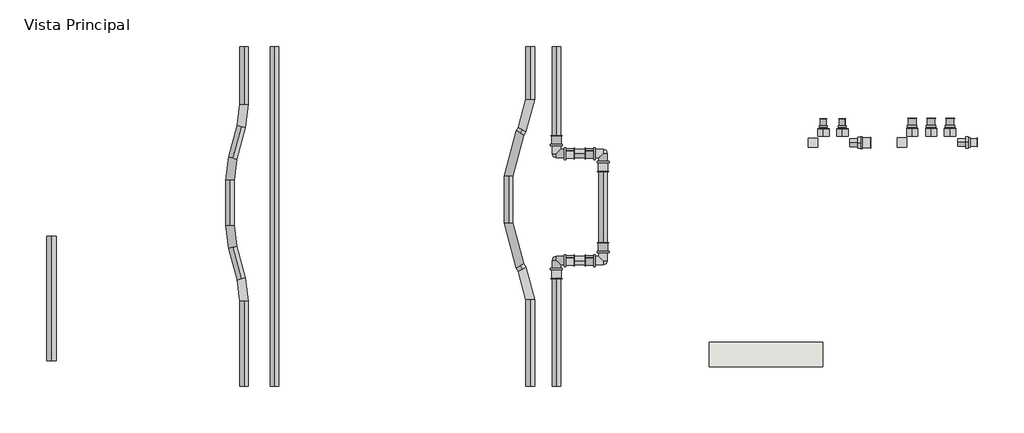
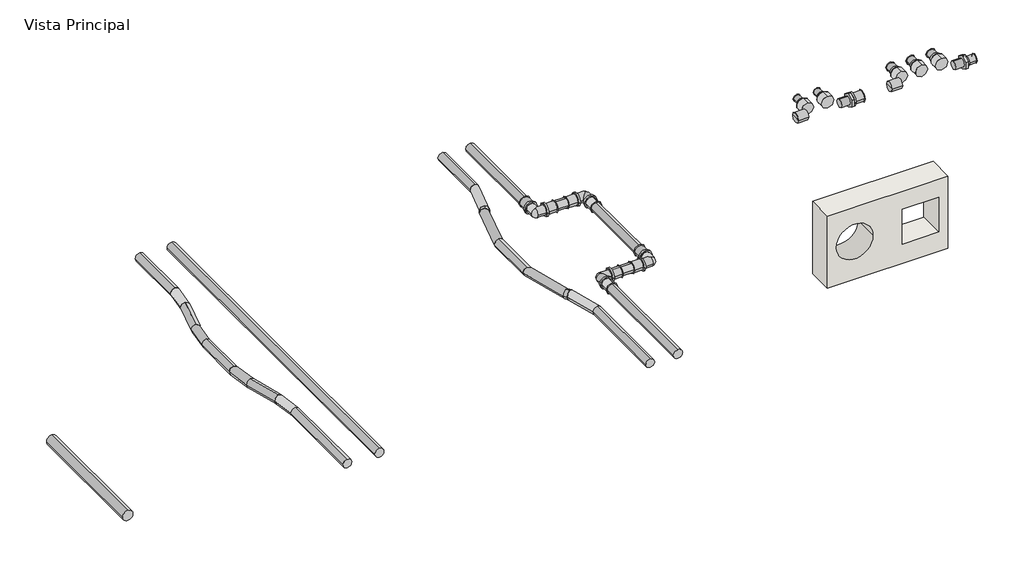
# One storey, incomplete: 36 pipe fittings, 17 pipe segments, 1 wall.
"""IFC4 building model written with IfcOpenShell, lengths in millimetres."""

from ifc_helpers import new_model, si_unit, point, frame, frame_2d, origin, place, context, project, spatial, polyline, circle_curve, trimmed, segment, composite_curve, outline, extrude, transform, mapped, element, save
from components import pipe_fitting_0048f4e8, k5_579bd2f6, pipe_fitting_518063be, pipe_fitting_5590baf3, pipe_fitting_c3ecb90c, azul_4665513f, rojo_d383c2d2, rojo_f0028795, var_25c4f382, var_874b99da, var_47cb32f1, var_bb96817c

model = new_model("IFC4")

# Units and contexts
model_context = context("Model", 3, world=origin())
ifc_project = project(units=[si_unit("LENGTHUNIT", "METRE", prefix="MILLI")], contexts=[model_context])

# Site, building, storey
site = spatial("IfcSite", under=ifc_project)
building = spatial("IfcBuilding", under=site)
storey = spatial("IfcBuildingStorey", under=building, Name="Vista Principal", Elevation=0.0)

# Pipe fittings
placement = place(None, origin())
pipe_fitting_shape = pipe_fitting_0048f4e8(model_context)
element("IfcPipeFitting", 1, ObjectType="AmancoWavin_Unionesdetubería_TigrisFlexZNoUsarCampana : Tigris K5", at=placement, inside=storey, context=model_context, shape_type="MappedRepresentation", body=[
    mapped(pipe_fitting_shape, transform((3018.024619, 1194.6157912, 0.0), x_axis=(0.0, -1.0, 0.0), y_axis=(1.0, 0.0, 0.0), z_axis=(0.0, 0.0, 1.0))),
])
element("IfcPipeFitting", 2, ObjectType="AmancoWavin_Unionesdetubería_TigrisFlexZNoUsarCampana : Tigris K5", at=placement, inside=storey, context=model_context, shape_type="MappedRepresentation", body=[
    mapped(pipe_fitting_shape, transform((3073.024619, 1194.6157912, 0.0), x_axis=(0.0, -1.0, 0.0), y_axis=(1.0, 0.0, 0.0), z_axis=(0.0, 0.0, 1.0))),
])
element("IfcPipeFitting", 3, ObjectType="AmancoWavin_Unionesdetubería_TigrisFlexZNoUsarCampana : Tigris K5", at=placement, inside=storey, context=model_context, shape_type="MappedRepresentation", body=[
    mapped(pipe_fitting_shape, transform((3128.024619, 1194.6157912, 0.0), x_axis=(0.0, -1.0, 0.0), y_axis=(1.0, 0.0, 0.0), z_axis=(0.0, 0.0, 1.0))),
])
element("IfcPipeFitting", 4, ObjectType="AmancoWavin_Unionesdetubería_TigrisFlexZNoUsarCampana : Tigris K5", at=placement, inside=storey, context=model_context, shape_type="MappedRepresentation", body=[
    mapped(pipe_fitting_shape, transform((3181.324619, 1150.2157912, 0.0), x_axis=(-1.0, 0.0, 0.0), y_axis=(0.0, -1.0, 0.0), z_axis=(0.0, 0.0, 1.0))),
])
k5_shape = k5_579bd2f6(model_context)
element("IfcPipeFitting", 5, ObjectType="AmancoWavin_Unionesdetubería_TigrisFlexZNoUsarCampana : Tigris K5", at=placement, inside=storey, context=model_context, shape_type="MappedRepresentation", body=[
    mapped(k5_shape, transform((2868.8239674, 1149.4178681, 0.0), x_axis=(-1.0, 0.0, 0.0), y_axis=(0.0, -1.0, 0.0), z_axis=(0.0, 0.0, 1.0))),
])
pipe_fitting_2_shape = pipe_fitting_518063be(model_context)
element("IfcPipeFitting", 6, ObjectType="AmancoWavin_Unionesdetubería_TigrisFlexZNoUsarConectorRosHembraManifold : Tigris K5", at=placement, inside=storey, context=model_context, shape_type="MappedRepresentation", body=[
    mapped(pipe_fitting_2_shape, transform((2760.5239674, 1191.3178681, 0.0), x_axis=(0.0, 1.0, 0.0), y_axis=(-1.0, 0.0, 0.0), z_axis=(0.0, 0.0, 1.0))),
])
element("IfcPipeFitting", 7, ObjectType="AmancoWavin_Unionesdetubería_TigrisFlexZNoUsarConectorRosHembraManifold : Tigris K5", at=placement, inside=storey, context=model_context, shape_type="MappedRepresentation", body=[
    mapped(pipe_fitting_2_shape, transform((2815.5239674, 1191.3178681, 0.0), x_axis=(0.0, 1.0, 0.0), y_axis=(-1.0, 0.0, 0.0), z_axis=(0.0, 0.0, 1.0))),
])
pipe_fitting_3_shape = pipe_fitting_5590baf3(model_context)
element("IfcPipeFitting", 8, ObjectType="AmancoWavin_Unionesdetubería_TigrisFlexZNoUsarConectorRosHembraManifold : Tigris K5", at=placement, inside=storey, context=model_context, shape_type="MappedRepresentation", body=[
    mapped(pipe_fitting_3_shape, transform((3018.024619, 1192.1157912, 0.0), x_axis=(0.0, 1.0, 0.0), y_axis=(-1.0, 0.0, 0.0), z_axis=(0.0, 0.0, 1.0))),
])
element("IfcPipeFitting", 9, ObjectType="AmancoWavin_Unionesdetubería_TigrisFlexZNoUsarConectorRosHembraManifold : Tigris K5", at=placement, inside=storey, context=model_context, shape_type="MappedRepresentation", body=[
    mapped(pipe_fitting_3_shape, transform((3073.024619, 1192.1157912, 0.0), x_axis=(0.0, 1.0, 0.0), y_axis=(-1.0, 0.0, 0.0), z_axis=(0.0, 0.0, 1.0))),
])
element("IfcPipeFitting", 10, ObjectType="AmancoWavin_Unionesdetubería_TigrisFlexZNoUsarConectorRosHembraManifold : Tigris K5", at=placement, inside=storey, context=model_context, shape_type="MappedRepresentation", body=[
    mapped(pipe_fitting_3_shape, transform((3128.024619, 1192.1157912, 0.0), x_axis=(0.0, 1.0, 0.0), y_axis=(-1.0, 0.0, 0.0), z_axis=(0.0, 0.0, 1.0))),
])
pipe_fitting_4_shape = pipe_fitting_c3ecb90c(model_context)
element("IfcPipeFitting", 11, ObjectType="AmancoWavin_Unionesdetubería_TigrisFlexZNoUsarCampana : Tigris K5", at=placement, inside=storey, context=model_context, shape_type="MappedRepresentation", body=[
    mapped(pipe_fitting_4_shape, transform((2760.5239674, 1193.8178681, 0.0), x_axis=(0.0, -1.0, 0.0), y_axis=(1.0, 0.0, 0.0), z_axis=(0.0, 0.0, 1.0))),
])
element("IfcPipeFitting", 12, ObjectType="AmancoWavin_Unionesdetubería_TigrisFlexZNoUsarCampana : Tigris K5", at=placement, inside=storey, context=model_context, shape_type="MappedRepresentation", body=[
    mapped(pipe_fitting_4_shape, transform((2815.5239674, 1193.8178681, 0.0), x_axis=(0.0, -1.0, 0.0), y_axis=(1.0, 0.0, 0.0), z_axis=(0.0, 0.0, 1.0))),
])
azul_shape = azul_4665513f(model_context)
element("IfcPipeFitting", 13, ObjectType="AmancoWavin_UnionesdeTubería_TigrisFlexTuberíaFlexible : Azul", at=placement, inside=storey, context=model_context, shape_type="MappedRepresentation", body=[
    mapped(azul_shape, transform((1082.9960417, 1228.0038708, 0.0), x_axis=(0.2588190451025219, 0.965925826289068, 0.0), y_axis=(-0.965925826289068, 0.2588190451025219, 0.0), z_axis=(0.0, 0.0, 1.0))),
])
element("IfcPipeFitting", 14, ObjectType="AmancoWavin_UnionesdeTubería_TigrisFlexTuberíaFlexible : Azul", at=placement, inside=storey, context=model_context, shape_type="MappedRepresentation", body=[
    mapped(azul_shape, transform((1041.5849945, 1073.4557386, 0.0), x_axis=(-0.25881904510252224, -0.965925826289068, 0.0), y_axis=(0.965925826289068, -0.25881904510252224, 0.0), z_axis=(0.0, 0.0, 1.0))),
])
element("IfcPipeFitting", 15, ObjectType="AmancoWavin_UnionesdeTubería_TigrisFlexTuberíaFlexible : Azul", at=placement, inside=storey, context=model_context, shape_type="MappedRepresentation", body=[
    mapped(azul_shape, transform((1041.5849945, 877.9987022, 0.0), x_axis=(0.0, -1.0, 0.0), y_axis=(1.0, 0.0, 0.0), z_axis=(0.0, 0.0, 1.0))),
])
element("IfcPipeFitting", 16, ObjectType="AmancoWavin_UnionesdeTubería_TigrisFlexTuberíaFlexible : Azul", at=placement, inside=storey, context=model_context, shape_type="MappedRepresentation", body=[
    mapped(azul_shape, transform((1082.9960417, 723.45057, 0.0), x_axis=(0.0, 1.0, 0.0), y_axis=(-1.0, 0.0, 0.0), z_axis=(0.0, 0.0, 1.0))),
])
element("IfcPipeFitting", 17, ObjectType="AmancoWavin_Unionesdetubería_TigrisFlexZNoUsarCampana : K5", at=placement, inside=storey, context=model_context, shape_type="MappedRepresentation", body=[
    mapped(k5_shape, transform((1987.7558771, 1140.0038708, 0.0), x_axis=(0.0, -1.0, 0.0), y_axis=(1.0, 0.0, 0.0), z_axis=(0.0, 0.0, 1.0))),
])
element("IfcPipeFitting", 18, ObjectType="AmancoWavin_Unionesdetubería_TigrisFlexZNoUsarCampana : K5", at=placement, inside=storey, context=model_context, shape_type="MappedRepresentation", body=[
    mapped(k5_shape, transform((2009.7558771, 1118.0038708, 0.0), x_axis=(-1.0, 0.0, 0.0), y_axis=(0.0, -1.0, 0.0), z_axis=(0.0, 0.0, 1.0))),
])
element("IfcPipeFitting", 19, ObjectType="AmancoWavin_Unionesdetubería_TigrisFlexZNoUsarCampana : K5", at=placement, inside=storey, context=model_context, shape_type="MappedRepresentation", body=[
    mapped(k5_shape, transform((2122.7558771, 1096.0038708, 0.0), x_axis=(0.0, 1.0, 0.0), y_axis=(-1.0, 0.0, 0.0), z_axis=(0.0, 0.0, 1.0))),
])
element("IfcPipeFitting", 20, ObjectType="AmancoWavin_Unionesdetubería_TigrisFlexZNoUsarCampana : K5", at=placement, inside=storey, context=model_context, shape_type="MappedRepresentation", body=[
    mapped(k5_shape, transform((2100.7558771, 1118.0038708, 0.0), x_axis=(1.0, 0.0, 0.0), y_axis=(0.0, 1.0, 0.0), z_axis=(0.0, 0.0, 1.0))),
])
element("IfcPipeFitting", 21, ObjectType="AmancoWavin_Unionesdetubería_TigrisFlexZNoUsarCampana : K5", at=placement, inside=storey, context=model_context, shape_type="MappedRepresentation", body=[
    mapped(k5_shape, transform((2100.7558771, 808.0038708, 0.0), x_axis=(1.0, 0.0, 0.0), y_axis=(0.0, 1.0, 0.0), z_axis=(0.0, 0.0, 1.0))),
])
element("IfcPipeFitting", 22, ObjectType="AmancoWavin_Unionesdetubería_TigrisFlexZNoUsarCampana : K5", at=placement, inside=storey, context=model_context, shape_type="MappedRepresentation", body=[
    mapped(k5_shape, transform((2122.7558771, 830.0038708, 0.0), x_axis=(0.0, -1.0, 0.0), y_axis=(1.0, 0.0, 0.0), z_axis=(0.0, 0.0, 1.0))),
])
element("IfcPipeFitting", 23, ObjectType="AmancoWavin_Unionesdetubería_TigrisFlexZNoUsarCampana : K5", at=placement, inside=storey, context=model_context, shape_type="MappedRepresentation", body=[
    mapped(k5_shape, transform((2009.7558771, 808.0038708, 0.0), x_axis=(-1.0, 0.0, 0.0), y_axis=(0.0, -1.0, 0.0), z_axis=(0.0, 0.0, 1.0))),
])
element("IfcPipeFitting", 24, ObjectType="AmancoWavin_Unionesdetubería_TigrisFlexZNoUsarCampana : K5", at=placement, inside=storey, context=model_context, shape_type="MappedRepresentation", body=[
    mapped(k5_shape, transform((1987.7558771, 786.0038708, 0.0), x_axis=(0.0, 1.0, 0.0), y_axis=(-1.0, 0.0, 0.0), z_axis=(0.0, 0.0, 1.0))),
])
rojo_shape = rojo_d383c2d2(model_context)
element("IfcPipeFitting", 25, ObjectType="AmancoWavin_UnionesdeTubería_TigrisFlexTuberíaFlexible : Rojo", at=placement, inside=storey, context=model_context, shape_type="MappedRepresentation", body=[
    mapped(rojo_shape, transform((1849.3324376, 850.468663, 0.0), x_axis=(0.0, -1.0, 0.0), y_axis=(1.0, 0.0, 0.0), z_axis=(0.0, 0.0, 1.0))),
])
element("IfcPipeFitting", 26, ObjectType="AmancoWavin_UnionesdeTubería_TigrisFlexTuberíaFlexible : Rojo", at=placement, inside=storey, context=model_context, shape_type="MappedRepresentation", body=[
    mapped(rojo_shape, transform((1849.3324376, 1119.7506953, 0.0), x_axis=(-0.4999999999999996, -0.8660254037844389, 0.0), y_axis=(0.8660254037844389, -0.4999999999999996, 0.0), z_axis=(0.0, 0.0, 1.0))),
])
rojo_2_shape = rojo_f0028795(model_context)
element("IfcPipeFitting", 27, ObjectType="AmancoWavin_UnionesdeTubería_TigrisFlexTuberíaFlexible : Rojo", at=placement, inside=storey, context=model_context, shape_type="MappedRepresentation", body=[
    mapped(rojo_2_shape, transform((1911.8324376, 742.2154876, 0.0), x_axis=(0.0, 1.0, 0.0), y_axis=(-1.0, 0.0, 0.0), z_axis=(0.0, 0.0, 1.0))),
])
element("IfcPipeFitting", 28, ObjectType="AmancoWavin_UnionesdeTubería_TigrisFlexTuberíaFlexible : Rojo", at=placement, inside=storey, context=model_context, shape_type="MappedRepresentation", body=[
    mapped(rojo_2_shape, transform((1911.8324376, 1228.0038708, 0.0), x_axis=(0.49999999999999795, 0.8660254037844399, 0.0), y_axis=(-0.8660254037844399, 0.49999999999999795, 0.0), z_axis=(0.0, 0.0, 1.0))),
])
var_shape = var_25c4f382(model_context)
element("IfcPipeFitting", 29, ObjectType="AmancoWavin_Unionesdetubería_TigrisFlexZNoUsarTapaHembraManifold : Var.", at=placement, inside=storey, context=model_context, shape_type="MappedRepresentation", body=[
    mapped(var_shape, transform((2724.5239674, 1149.4178681, 0.0), x_axis=(-1.0, 0.0, 0.0), y_axis=(0.0, -1.0, 0.0), z_axis=(0.0, 0.0, 1.0))),
])
element("IfcPipeFitting", 30, ObjectType="AmancoWavin_Unionesdetubería_TigrisFlexZNoUsarTapaHembraManifold : Var.", at=placement, inside=storey, context=model_context, shape_type="MappedRepresentation", body=[
    mapped(var_shape, transform((2982.024619, 1150.2157912, 0.0), x_axis=(-1.0, 0.0, 0.0), y_axis=(0.0, -1.0, 0.0), z_axis=(0.0, 0.0, 1.0))),
])
var_2_shape = var_874b99da(model_context)
element("IfcPipeFitting", 31, ObjectType="AmancoWavin_Unionesdetubería_TigrisFlexZNoUsarRoscaMacho-MachoManifold(nested) : Var.", at=placement, inside=storey, context=model_context, shape_type="MappedRepresentation", body=[
    mapped(var_2_shape, transform((2899.0239674, 1149.4178681, 0.0), x_axis=(1.0, 0.0, 0.0), y_axis=(0.0, 1.0, 0.0), z_axis=(0.0, 0.0, 1.0))),
])
var_3_shape = var_47cb32f1(model_context)
element("IfcPipeFitting", 32, ObjectType="AmancoWavin_Unionesdetubería_TigrisFlexZNoUsarRoscaMacho-MachoManifold(nested) : Var.", at=placement, inside=storey, context=model_context, shape_type="MappedRepresentation", body=[
    mapped(var_3_shape, transform((3207.524619, 1150.2157912, 0.0), x_axis=(1.0, 0.0, 0.0), y_axis=(0.0, 1.0, 0.0), z_axis=(0.0, 0.0, 1.0))),
])
var_4_shape = var_bb96817c(model_context)
element("IfcPipeFitting", 33, ObjectType="AmancoWavin_Unionesdetubería_TigrisFlexCodo : Var.", at=placement, inside=storey, context=model_context, shape_type="MappedRepresentation", body=[
    mapped(var_4_shape, transform((1987.7558771, 1118.0038708, 0.0), x_axis=(0.0, -1.0, 0.0), y_axis=(1.0, 0.0, 0.0), z_axis=(0.0, 0.0, 1.0))),
])
element("IfcPipeFitting", 34, ObjectType="AmancoWavin_Unionesdetubería_TigrisFlexCodo : Var.", at=placement, inside=storey, context=model_context, shape_type="MappedRepresentation", body=[
    mapped(var_4_shape, transform((2122.7558771, 1118.0038708, 0.0), x_axis=(0.0, 1.0, 0.0), y_axis=(-1.0, 0.0, 0.0), z_axis=(0.0, 0.0, 1.0))),
])
element("IfcPipeFitting", 35, ObjectType="AmancoWavin_Unionesdetubería_TigrisFlexCodo : Var.", at=placement, inside=storey, context=model_context, shape_type="MappedRepresentation", body=[
    mapped(var_4_shape, transform((2122.7558771, 808.0038708, 0.0), x_axis=(1.0, 0.0, 0.0), y_axis=(0.0, 1.0, 0.0), z_axis=(0.0, 0.0, 1.0))),
])
element("IfcPipeFitting", 36, ObjectType="AmancoWavin_Unionesdetubería_TigrisFlexCodo : Var.", at=placement, inside=storey, context=model_context, shape_type="MappedRepresentation", body=[
    mapped(var_4_shape, transform((1987.7558771, 808.0038708, 0.0), x_axis=(-1.0, 0.0, 0.0), y_axis=(0.0, -1.0, 0.0), z_axis=(0.0, 0.0, 1.0))),
])

# Pipe segments
element("IfcPipeSegment", 37, ObjectType="Tubo de Transición Universal", at=placement, inside=storey, context=model_context, shape_type="SweptSolid", body=[
    extrude(outline(composite_curve([segment(trimmed(circle_curve(frame_2d((0.0, 524.9354616)), 14.2875), [point((0.0, 510.6479616))], [point((-14.2875, 524.9354616))], False, "CARTESIAN"), True, "CONTINUOUS"), segment(trimmed(circle_curve(frame_2d((0.0, 524.9354616)), 14.2875), [point((-14.2875, 524.9354616))], [point((0.0, 539.2229616))], False, "CARTESIAN"), True, "CONTINUOUS"), segment(trimmed(circle_curve(frame_2d((0.0, 524.9354616)), 14.2875), [point((0.0, 539.2229616))], [point((14.2875, 524.9354616))], False, "CARTESIAN"), True, "CONTINUOUS"), segment(trimmed(circle_curve(frame_2d((0.0, 524.9354616)), 14.2875), [point((14.2875, 524.9354616))], [point((0.0, 510.6479616))], False, "CARTESIAN"), True, "CONTINUOUS")], self_intersect=False)), frame((0.0, 517.9987022, 0.0), z_axis=(0.0, 1.0, 0.0), x_axis=(0.0, 0.0, 1.0)), (0.0, 0.0, 1.0), 360.0),
])
element("IfcPipeSegment", 38, ObjectType="AmancoWavin_TuberíasFlexibles_TIGRISFLEXAzul 16-32 mm (50 mts-100 mts)", at=placement, inside=storey, context=model_context, shape_type="SweptSolid", body=[
    extrude(outline(composite_curve([segment(trimmed(circle_curve(frame_2d((0.0, 1082.9960417)), 12.5), [point((0.0, 1070.4960417))], [point((-12.5, 1082.9960417))], False, "CARTESIAN"), True, "CONTINUOUS"), segment(trimmed(circle_curve(frame_2d((0.0, 1082.9960417)), 12.5), [point((-12.5, 1082.9960417))], [point((0.0, 1095.4960417))], False, "CARTESIAN"), True, "CONTINUOUS"), segment(trimmed(circle_curve(frame_2d((0.0, 1082.9960417)), 12.5), [point((0.0, 1095.4960417))], [point((12.5, 1082.9960417))], False, "CARTESIAN"), True, "CONTINUOUS"), segment(trimmed(circle_curve(frame_2d((0.0, 1082.9960417)), 12.5), [point((12.5, 1082.9960417))], [point((0.0, 1070.4960417))], False, "CARTESIAN"), True, "CONTINUOUS")], self_intersect=False)), frame((0.0, 1260.9169952, 0.0), z_axis=(0.0, 1.0, 0.0), x_axis=(0.0, 0.0, 1.0)), (0.0, 0.0, 1.0), 167.0868756),
])
element("IfcPipeSegment", 39, ObjectType="AmancoWavin_TuberíasFlexibles_TIGRISFLEXAzul 16-32 mm (50 mts-100 mts)", at=placement, inside=storey, context=model_context, shape_type="SweptSolid", body=[
    extrude(outline(composite_curve([segment(trimmed(circle_curve(frame_2d((0.0, -12.5)), 12.5), [point((-12.5, -12.5))], [point((0.0, 0.0))], False, "CARTESIAN"), True, "CONTINUOUS"), segment(trimmed(circle_curve(frame_2d((0.0, -12.5)), 12.5), [point((0.0, 0.0))], [point((12.5, -12.5))], False, "CARTESIAN"), True, "CONTINUOUS"), segment(trimmed(circle_curve(frame_2d((0.0, -12.5)), 12.5), [point((12.5, -12.5))], [point((0.0, -25.0))], False, "CARTESIAN"), True, "CONTINUOUS"), segment(trimmed(circle_curve(frame_2d((0.0, -12.5)), 12.5), [point((0.0, -25.0))], [point((-12.5, -12.5))], False, "CARTESIAN"), True, "CONTINUOUS")], self_intersect=False)), frame((1050.1035379, 1105.2473755, -12.5), z_axis=(0.25881904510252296, 0.9659258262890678, 0.0), x_axis=(0.9659258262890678, -0.25881904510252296, 0.0)), (0.0, 0.0, 1.0), 94.1737512),
])
element("IfcPipeSegment", 40, ObjectType="AmancoWavin_TuberíasFlexibles_TIGRISFLEXAzul 16-32 mm (50 mts-100 mts)", at=placement, inside=storey, context=model_context, shape_type="SweptSolid", body=[
    extrude(outline(composite_curve([segment(trimmed(circle_curve(frame_2d((0.0, 1041.5849945)), 12.5), [point((0.0, 1029.0849945))], [point((-12.5, 1041.5849945))], False, "CARTESIAN"), True, "CONTINUOUS"), segment(trimmed(circle_curve(frame_2d((0.0, 1041.5849945)), 12.5), [point((-12.5, 1041.5849945))], [point((0.0, 1054.0849945))], False, "CARTESIAN"), True, "CONTINUOUS"), segment(trimmed(circle_curve(frame_2d((0.0, 1041.5849945)), 12.5), [point((0.0, 1054.0849945))], [point((12.5, 1041.5849945))], False, "CARTESIAN"), True, "CONTINUOUS"), segment(trimmed(circle_curve(frame_2d((0.0, 1041.5849945)), 12.5), [point((12.5, 1041.5849945))], [point((0.0, 1029.0849945))], False, "CARTESIAN"), True, "CONTINUOUS")], self_intersect=False)), frame((0.0, 910.9118266, 0.0), z_axis=(0.0, 1.0, 0.0), x_axis=(0.0, 0.0, 1.0)), (0.0, 0.0, 1.0), 129.6307876),
])
element("IfcPipeSegment", 41, ObjectType="AmancoWavin_TuberíasFlexibles_TIGRISFLEXAzul 16-32 mm (50 mts-100 mts)", at=placement, inside=storey, context=model_context, shape_type="SweptSolid", body=[
    extrude(outline(composite_curve([segment(trimmed(circle_curve(frame_2d((0.0, -12.5)), 12.5), [point((-12.5000001, -12.5))], [point((0.0, 0.0))], False, "CARTESIAN"), True, "CONTINUOUS"), segment(trimmed(circle_curve(frame_2d((0.0, -12.5)), 12.5), [point((0.0, 0.0))], [point((12.5, -12.5))], False, "CARTESIAN"), True, "CONTINUOUS"), segment(trimmed(circle_curve(frame_2d((0.0, -12.5)), 12.5), [point((12.5, -12.5))], [point((0.0, -25.0))], False, "CARTESIAN"), True, "CONTINUOUS"), segment(trimmed(circle_curve(frame_2d((0.0, -12.5)), 12.5), [point((0.0, -25.0))], [point((-12.5000001, -12.5))], False, "CARTESIAN"), True, "CONTINUOUS")], self_intersect=False)), frame((1074.4774983, 755.2422069, -12.5), z_axis=(-0.2588190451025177, 0.9659258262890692, 0.0), x_axis=(0.9659258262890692, 0.2588190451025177, 0.0)), (0.0, 0.0, 1.0), 94.1737512),
])
element("IfcPipeSegment", 42, ObjectType="AmancoWavin_TuberíasFlexibles_TIGRISFLEXAzul 16-32 mm (50 mts-100 mts)", at=placement, inside=storey, context=model_context, shape_type="SweptSolid", body=[
    extrude(outline(composite_curve([segment(trimmed(circle_curve(frame_2d((0.0, 1082.9960417)), 12.5), [point((0.0, 1070.4960417))], [point((-12.5, 1082.9960417))], False, "CARTESIAN"), True, "CONTINUOUS"), segment(trimmed(circle_curve(frame_2d((0.0, 1082.9960417)), 12.5), [point((-12.5, 1082.9960417))], [point((0.0, 1095.4960417))], False, "CARTESIAN"), True, "CONTINUOUS"), segment(trimmed(circle_curve(frame_2d((0.0, 1082.9960417)), 12.5), [point((0.0, 1095.4960417))], [point((12.5, 1082.9960417))], False, "CARTESIAN"), True, "CONTINUOUS"), segment(trimmed(circle_curve(frame_2d((0.0, 1082.9960417)), 12.5), [point((12.5, 1082.9960417))], [point((0.0, 1070.4960417))], False, "CARTESIAN"), True, "CONTINUOUS")], self_intersect=False)), frame((0.0, 443.45057, 0.0), z_axis=(0.0, 1.0, 0.0), x_axis=(0.0, 0.0, 1.0)), (0.0, 0.0, 1.0), 247.0868756),
])
element("IfcPipeSegment", 43, ObjectType="AmancoWavin_TuberíasFlexibles_TIGRISFLEXAzul 16-32 mm (50 mts-100 mts)", at=placement, inside=storey, context=model_context, shape_type="SweptSolid", body=[
    extrude(outline(composite_curve([segment(trimmed(circle_curve(frame_2d((0.0, 1170.7407412)), 12.5), [point((0.0, 1158.2407412))], [point((-12.5, 1170.7407412))], False, "CARTESIAN"), True, "CONTINUOUS"), segment(trimmed(circle_curve(frame_2d((0.0, 1170.7407412)), 12.5), [point((-12.5, 1170.7407412))], [point((0.0, 1183.2407412))], False, "CARTESIAN"), True, "CONTINUOUS"), segment(trimmed(circle_curve(frame_2d((0.0, 1170.7407412)), 12.5), [point((0.0, 1183.2407412))], [point((12.5, 1170.7407412))], False, "CARTESIAN"), True, "CONTINUOUS"), segment(trimmed(circle_curve(frame_2d((0.0, 1170.7407412)), 12.5), [point((12.5, 1170.7407412))], [point((0.0, 1158.2407412))], False, "CARTESIAN"), True, "CONTINUOUS")], self_intersect=False)), frame((0.0, 443.45057, 0.0), z_axis=(0.0, 1.0, 0.0), x_axis=(0.0, 0.0, 1.0)), (0.0, 0.0, 1.0), 984.5533008),
])
element("IfcPipeSegment", 44, ObjectType="AmancoWavin_TuberíasFlexibles_TIGRISFLEXRojo 16-32 mm (50 mts-100 mts)", at=placement, inside=storey, context=model_context, shape_type="SweptSolid", body=[
    extrude(outline(composite_curve([segment(trimmed(circle_curve(frame_2d((0.0, 1987.7558771)), 12.5), [point((0.0, 1975.2558771))], [point((-12.5, 1987.7558771))], False, "CARTESIAN"), True, "CONTINUOUS"), segment(trimmed(circle_curve(frame_2d((0.0, 1987.7558771)), 12.5), [point((-12.5, 1987.7558771))], [point((0.0, 2000.2558771))], False, "CARTESIAN"), True, "CONTINUOUS"), segment(trimmed(circle_curve(frame_2d((0.0, 1987.7558771)), 12.5), [point((0.0, 2000.2558771))], [point((12.5, 1987.7558771))], False, "CARTESIAN"), True, "CONTINUOUS"), segment(trimmed(circle_curve(frame_2d((0.0, 1987.7558771)), 12.5), [point((12.5, 1987.7558771))], [point((0.0, 1975.2558771))], False, "CARTESIAN"), True, "CONTINUOUS")], self_intersect=False)), frame((0.0, 1140.0038708, 0.0), z_axis=(0.0, 1.0, 0.0), x_axis=(0.0, 0.0, 1.0)), (0.0, 0.0, 1.0), 288.0),
])
element("IfcPipeSegment", 45, ObjectType="AmancoWavin_TuberíasFlexibles_TIGRISFLEXRojo 16-32 mm (50 mts-100 mts)", at=placement, inside=storey, context=model_context, shape_type="SweptSolid", body=[
    extrude(outline(composite_curve([segment(trimmed(circle_curve(frame_2d((1118.0038708, 0.0)), 12.5), [point((1105.5038708, 0.0))], [point((1118.0038708, 12.5))], False, "CARTESIAN"), True, "CONTINUOUS"), segment(trimmed(circle_curve(frame_2d((1118.0038708, 0.0)), 12.5), [point((1118.0038708, 12.5))], [point((1130.5038708, 0.0))], False, "CARTESIAN"), True, "CONTINUOUS"), segment(trimmed(circle_curve(frame_2d((1118.0038708, 0.0)), 12.5), [point((1130.5038708, 0.0))], [point((1118.0038708, -12.5))], False, "CARTESIAN"), True, "CONTINUOUS"), segment(trimmed(circle_curve(frame_2d((1118.0038708, 0.0)), 12.5), [point((1118.0038708, -12.5))], [point((1105.5038708, 0.0))], False, "CARTESIAN"), True, "CONTINUOUS")], self_intersect=False)), frame((2009.7558771, 0.0, 0.0), z_axis=(1.0, 0.0, 0.0), x_axis=(0.0, 1.0, 0.0)), (0.0, 0.0, 1.0), 91.0),
])
element("IfcPipeSegment", 46, ObjectType="AmancoWavin_TuberíasFlexibles_TIGRISFLEXRojo 16-32 mm (50 mts-100 mts)", at=placement, inside=storey, context=model_context, shape_type="SweptSolid", body=[
    extrude(outline(composite_curve([segment(trimmed(circle_curve(frame_2d((0.0, 2122.7558771)), 12.5), [point((0.0, 2110.2558771))], [point((-12.5, 2122.7558771))], False, "CARTESIAN"), True, "CONTINUOUS"), segment(trimmed(circle_curve(frame_2d((0.0, 2122.7558771)), 12.5), [point((-12.5, 2122.7558771))], [point((0.0, 2135.2558771))], False, "CARTESIAN"), True, "CONTINUOUS"), segment(trimmed(circle_curve(frame_2d((0.0, 2122.7558771)), 12.5), [point((0.0, 2135.2558771))], [point((12.5, 2122.7558771))], False, "CARTESIAN"), True, "CONTINUOUS"), segment(trimmed(circle_curve(frame_2d((0.0, 2122.7558771)), 12.5), [point((12.5, 2122.7558771))], [point((0.0, 2110.2558771))], False, "CARTESIAN"), True, "CONTINUOUS")], self_intersect=False)), frame((0.0, 830.0038708, 0.0), z_axis=(0.0, 1.0, 0.0), x_axis=(0.0, 0.0, 1.0)), (0.0, 0.0, 1.0), 266.0),
])
element("IfcPipeSegment", 47, ObjectType="AmancoWavin_TuberíasFlexibles_TIGRISFLEXRojo 16-32 mm (50 mts-100 mts)", at=placement, inside=storey, context=model_context, shape_type="SweptSolid", body=[
    extrude(outline(composite_curve([segment(trimmed(circle_curve(frame_2d((808.0038708, 0.0)), 12.5), [point((820.5038708, 0.0))], [point((808.0038708, -12.5))], False, "CARTESIAN"), True, "CONTINUOUS"), segment(trimmed(circle_curve(frame_2d((808.0038708, 0.0)), 12.5), [point((808.0038708, -12.5))], [point((795.5038708, 0.0))], False, "CARTESIAN"), True, "CONTINUOUS"), segment(trimmed(circle_curve(frame_2d((808.0038708, 0.0)), 12.5), [point((795.5038708, 0.0))], [point((808.0038708, 12.5))], False, "CARTESIAN"), True, "CONTINUOUS"), segment(trimmed(circle_curve(frame_2d((808.0038708, 0.0)), 12.5), [point((808.0038708, 12.5))], [point((820.5038708, 0.0))], False, "CARTESIAN"), True, "CONTINUOUS")], self_intersect=False)), frame((2009.7558771, 0.0, 0.0), z_axis=(1.0, 0.0, 0.0), x_axis=(0.0, 1.0, 0.0)), (0.0, 0.0, 1.0), 91.0),
])
element("IfcPipeSegment", 48, ObjectType="AmancoWavin_TuberíasFlexibles_TIGRISFLEXRojo 16-32 mm (50 mts-100 mts)", at=placement, inside=storey, context=model_context, shape_type="SweptSolid", body=[
    extrude(outline(composite_curve([segment(trimmed(circle_curve(frame_2d((0.0, 1987.7558771)), 12.5), [point((0.0, 1975.2558771))], [point((-12.5, 1987.7558771))], False, "CARTESIAN"), True, "CONTINUOUS"), segment(trimmed(circle_curve(frame_2d((0.0, 1987.7558771)), 12.5), [point((-12.5, 1987.7558771))], [point((0.0, 2000.2558771))], False, "CARTESIAN"), True, "CONTINUOUS"), segment(trimmed(circle_curve(frame_2d((0.0, 1987.7558771)), 12.5), [point((0.0, 2000.2558771))], [point((12.5, 1987.7558771))], False, "CARTESIAN"), True, "CONTINUOUS"), segment(trimmed(circle_curve(frame_2d((0.0, 1987.7558771)), 12.5), [point((12.5, 1987.7558771))], [point((0.0, 1975.2558771))], False, "CARTESIAN"), True, "CONTINUOUS")], self_intersect=False)), frame((0.0, 443.45057, 0.0), z_axis=(0.0, 1.0, 0.0), x_axis=(0.0, 0.0, 1.0)), (0.0, 0.0, 1.0), 342.5533008),
])
element("IfcPipeSegment", 49, ObjectType="AmancoWavin_TuberíasFlexibles_TIGRISFLEXRojo 16-32 mm (50 mts-100 mts)", at=placement, inside=storey, context=model_context, shape_type="SweptSolid", body=[
    extrude(outline(composite_curve([segment(trimmed(circle_curve(frame_2d((0.0, 1911.8324376)), 12.5), [point((0.0, 1899.3324376))], [point((-12.5, 1911.8324376))], False, "CARTESIAN"), True, "CONTINUOUS"), segment(trimmed(circle_curve(frame_2d((0.0, 1911.8324376)), 12.5), [point((-12.5, 1911.8324376))], [point((0.0, 1924.3324376))], False, "CARTESIAN"), True, "CONTINUOUS"), segment(trimmed(circle_curve(frame_2d((0.0, 1911.8324376)), 12.5), [point((0.0, 1924.3324376))], [point((12.5, 1911.8324376))], False, "CARTESIAN"), True, "CONTINUOUS"), segment(trimmed(circle_curve(frame_2d((0.0, 1911.8324376)), 12.5), [point((12.5, 1911.8324376))], [point((0.0, 1899.3324376))], False, "CARTESIAN"), True, "CONTINUOUS")], self_intersect=False)), frame((0.0, 1275.5916474, 0.0), z_axis=(0.0, 1.0, 0.0), x_axis=(0.0, 0.0, 1.0)), (0.0, 0.0, 1.0), 152.4122234),
])
element("IfcPipeSegment", 50, ObjectType="AmancoWavin_TuberíasFlexibles_TIGRISFLEXRojo 16-32 mm (50 mts-100 mts)", at=placement, inside=storey, context=model_context, shape_type="SweptSolid", body=[
    extrude(outline(composite_curve([segment(trimmed(circle_curve(frame_2d((0.0, -12.5)), 12.5), [point((-12.5, -12.5))], [point((0.0, 0.0))], False, "CARTESIAN"), True, "CONTINUOUS"), segment(trimmed(circle_curve(frame_2d((0.0, -12.5)), 12.5), [point((0.0, 0.0))], [point((12.5, -12.5))], False, "CARTESIAN"), True, "CONTINUOUS"), segment(trimmed(circle_curve(frame_2d((0.0, -12.5)), 12.5), [point((12.5, -12.5))], [point((0.0, -25.0))], False, "CARTESIAN"), True, "CONTINUOUS"), segment(trimmed(circle_curve(frame_2d((0.0, -12.5)), 12.5), [point((0.0, -25.0))], [point((-12.5, -12.5))], False, "CARTESIAN"), True, "CONTINUOUS")], self_intersect=False)), frame((1882.8260866, 1177.7633972, -12.5), z_axis=(0.5000000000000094, 0.8660254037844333, 0.0), x_axis=(0.8660254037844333, -0.5000000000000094, 0.0)), (0.0, 0.0, 1.0), 10.4249253),
])
element("IfcPipeSegment", 51, ObjectType="AmancoWavin_TuberíasFlexibles_TIGRISFLEXRojo 16-32 mm (50 mts-100 mts)", at=placement, inside=storey, context=model_context, shape_type="SweptSolid", body=[
    extrude(outline(composite_curve([segment(trimmed(circle_curve(frame_2d((0.0, 1849.3324376)), 12.5), [point((0.0, 1836.8324376))], [point((-12.5, 1849.3324376))], False, "CARTESIAN"), True, "CONTINUOUS"), segment(trimmed(circle_curve(frame_2d((0.0, 1849.3324376)), 12.5), [point((-12.5, 1849.3324376))], [point((0.0, 1861.8324376))], False, "CARTESIAN"), True, "CONTINUOUS"), segment(trimmed(circle_curve(frame_2d((0.0, 1849.3324376)), 12.5), [point((0.0, 1861.8324376))], [point((12.5, 1849.3324376))], False, "CARTESIAN"), True, "CONTINUOUS"), segment(trimmed(circle_curve(frame_2d((0.0, 1849.3324376)), 12.5), [point((12.5, 1849.3324376))], [point((0.0, 1836.8324376))], False, "CARTESIAN"), True, "CONTINUOUS")], self_intersect=False)), frame((0.0, 917.4559611, 0.0), z_axis=(0.0, 1.0, 0.0), x_axis=(0.0, 0.0, 1.0)), (0.0, 0.0, 1.0), 135.3074361),
])
element("IfcPipeSegment", 52, ObjectType="AmancoWavin_TuberíasFlexibles_TIGRISFLEXRojo 16-32 mm (50 mts-100 mts)", at=placement, inside=storey, context=model_context, shape_type="SweptSolid", body=[
    extrude(outline(composite_curve([segment(trimmed(circle_curve(frame_2d((0.0, -12.5)), 12.5), [point((-12.5, -12.5))], [point((0.0, 0.0))], False, "CARTESIAN"), True, "CONTINUOUS"), segment(trimmed(circle_curve(frame_2d((0.0, -12.5)), 12.5), [point((0.0, 0.0))], [point((12.5, -12.5))], False, "CARTESIAN"), True, "CONTINUOUS"), segment(trimmed(circle_curve(frame_2d((0.0, -12.5)), 12.5), [point((12.5, -12.5))], [point((0.0, -25.0))], False, "CARTESIAN"), True, "CONTINUOUS"), segment(trimmed(circle_curve(frame_2d((0.0, -12.5)), 12.5), [point((0.0, -25.0))], [point((-12.5, -12.5))], False, "CARTESIAN"), True, "CONTINUOUS")], self_intersect=False)), frame((1888.0385493, 783.427711, -12.5), z_axis=(-0.49999999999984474, 0.8660254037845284, 0.0), x_axis=(0.8660254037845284, 0.49999999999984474, 0.0)), (0.0, 0.0, 1.0), 10.4249253),
])
element("IfcPipeSegment", 53, ObjectType="AmancoWavin_TuberíasFlexibles_TIGRISFLEXRojo 16-32 mm (50 mts-100 mts)", at=placement, inside=storey, context=model_context, shape_type="SweptSolid", body=[
    extrude(outline(composite_curve([segment(trimmed(circle_curve(frame_2d((0.0, 1911.8324376)), 12.5), [point((0.0, 1899.3324376))], [point((-12.5, 1911.8324376))], False, "CARTESIAN"), True, "CONTINUOUS"), segment(trimmed(circle_curve(frame_2d((0.0, 1911.8324376)), 12.5), [point((-12.5, 1911.8324376))], [point((0.0, 1924.3324376))], False, "CARTESIAN"), True, "CONTINUOUS"), segment(trimmed(circle_curve(frame_2d((0.0, 1911.8324376)), 12.5), [point((0.0, 1924.3324376))], [point((12.5, 1911.8324376))], False, "CARTESIAN"), True, "CONTINUOUS"), segment(trimmed(circle_curve(frame_2d((0.0, 1911.8324376)), 12.5), [point((12.5, 1911.8324376))], [point((0.0, 1899.3324376))], False, "CARTESIAN"), True, "CONTINUOUS")], self_intersect=False)), frame((0.0, 443.45057, 0.0), z_axis=(0.0, 1.0, 0.0), x_axis=(0.0, 0.0, 1.0)), (0.0, 0.0, 1.0), 251.177141),
])

# Wall
element("IfcWall", 54, ObjectType="Wall 1", at=placement, inside=storey, context=model_context, shape_type="SweptSolid", body=[
    extrude(outline(polyline([(0.0, 2429.7391326), (0.0, 2759.7391326), (209.2400357, 2759.7391326), (209.2400357, 2429.7391326), (0.0, 2429.7391326)]), holes=[composite_curve([segment(trimmed(circle_curve(frame_2d((109.4282969, 2504.7391326)), 50.0), [point((109.4282969, 2554.7391326))], [point((109.4282969, 2454.7391326))], True, "CARTESIAN"), True, "CONTINUOUS"), segment(trimmed(circle_curve(frame_2d((109.4282969, 2504.7391326)), 50.0), [point((109.4282969, 2454.7391326))], [point((109.4282969, 2554.7391326))], True, "CARTESIAN"), True, "CONTINUOUS")], self_intersect=False), polyline([(56.4896004, 2734.7391326), (56.4896004, 2634.7391326), (156.4896004, 2634.7391326), (156.4896004, 2734.7391326), (56.4896004, 2734.7391326)])]), frame((0.0, 501.0579048, 0.0), z_axis=(0.0, 1.0, 0.0), x_axis=(0.0, 0.0, 1.0)), (0.0, 0.0, 1.0), 70.0),
])

save(model, "model.ifc")
